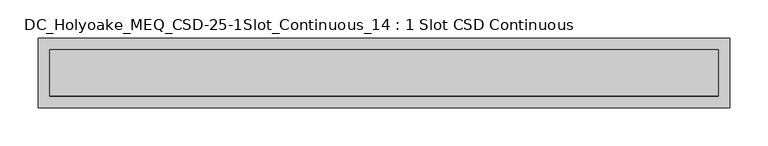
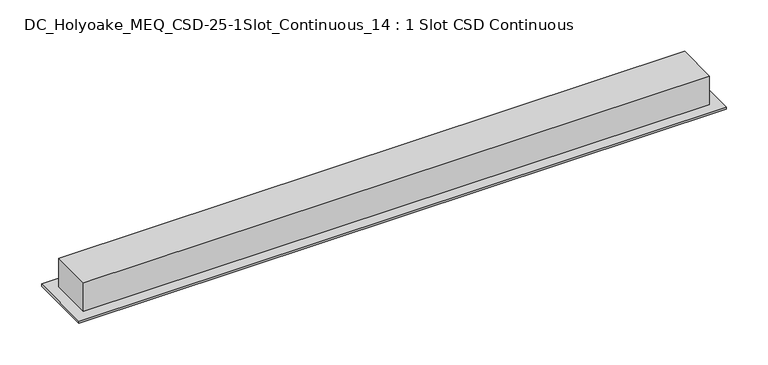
"""IFC4 building model written with IfcOpenShell, lengths in millimetres: air terminal geometry, DC_Holyoake_MEQ_CSD-25-1Slot_Continuous_14 : 1 Slot CSD Continuous."""

from ifc_helpers import new_model, si_unit, origin, place, context, project, spatial, faceted_brep, source, transform, mapped, element, save


def dc_holyoake_meq_csd_25_1slot_continuous_14_1_slot_csd_03fdfd0d(model_context):
    return source(origin(), model_context, "Body", "Brep", [
        faceted_brep([(450.0, 45.0, 3.2), (-450.0, 45.0, 3.2), (-450.0, -45.0, 3.2), (450.0, -45.0, 3.2), (-435.0, 30.0, 3.2), (435.0, 30.0, 3.2), (435.0, -30.0, 3.2), (-435.0, -30.0, 3.2), (450.0, 45.0, 0.0), (450.0, -45.0, 0.0), (-450.0, -45.0, 0.0), (-450.0, 45.0, 0.0), (425.0, -12.5, 0.0), (425.0, 12.5, 0.0), (-425.0, 12.5, 0.0), (-425.0, -12.5, 0.0), (435.0, 30.0, 45.0), (-435.0, 30.0, 45.0), (-435.0, -30.0, 45.0), (435.0, -30.0, 45.0), (425.0, -12.5, 30.0), (-425.0, -12.5, 30.0), (-425.0, 12.5, 30.0), (425.0, 12.5, 30.0)], [[[0, 1, 2, 3], [4, 5, 6, 7]], [[8, 9, 10, 11], [12, 13, 14, 15]], [[1, 0, 8, 11]], [[2, 1, 11, 10]], [[3, 2, 10, 9]], [[0, 3, 9, 8]], [[16, 17, 18, 19]], [[17, 16, 5, 4]], [[18, 17, 4, 7]], [[19, 18, 7, 6]], [[16, 19, 6, 5]], [[20, 21, 22, 23]], [[20, 23, 13, 12]], [[23, 22, 14, 13]], [[22, 21, 15, 14]], [[21, 20, 12, 15]]]),
    ])


if __name__ == "__main__":
    model = new_model("IFC4")
    model_context = context("Model", 3, world=origin())
    ifc_project = project(units=[si_unit("LENGTHUNIT", "METRE", prefix="MILLI")], contexts=[model_context])
    site = spatial("IfcSite", under=ifc_project)
    building = spatial("IfcBuilding", under=site)
    placement = place(None, origin())
    dc_holyoake_meq_csd_25_1slot_continuous_14_1_slot_csd_shape = dc_holyoake_meq_csd_25_1slot_continuous_14_1_slot_csd_03fdfd0d(model_context)
    element("IfcAirTerminal", 1, ObjectType="DC_Holyoake_MEQ_CSD-25-1Slot_Continuous_14 : 1 Slot CSD Continuous", at=placement, inside=building, context=model_context, shape_type="MappedRepresentation", body=[
        mapped(dc_holyoake_meq_csd_25_1slot_continuous_14_1_slot_csd_shape, transform((0.0, 0.0, 0.0), x_axis=(1.0, 0.0, 0.0), y_axis=(0.0, 1.0, 0.0), z_axis=(0.0, 0.0, 1.0))),
    ])
    save(model, "model.ifc")
